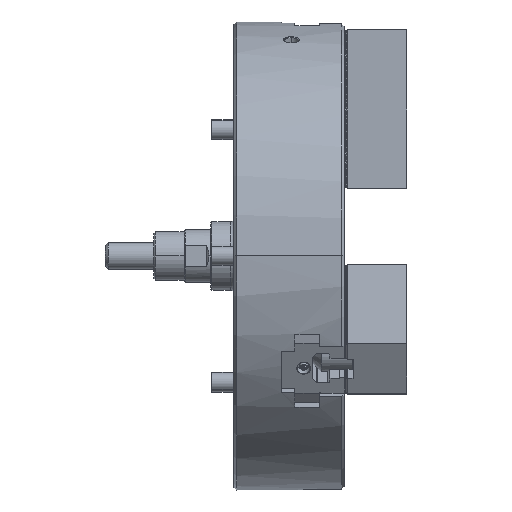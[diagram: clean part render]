
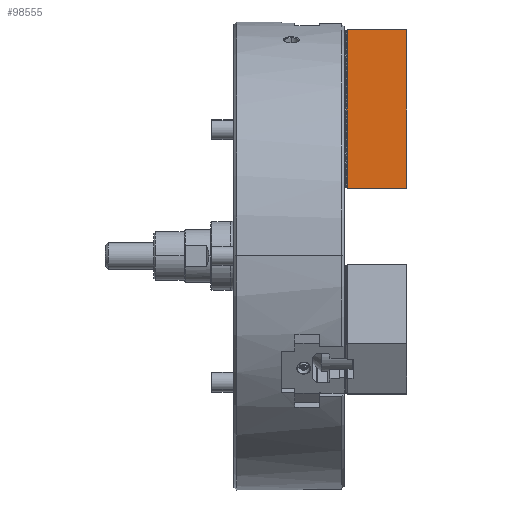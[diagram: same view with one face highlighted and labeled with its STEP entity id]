
A CAD part, top view. The second image highlights one B-rep face of the part: STEP entity #98555.
In plain terms, the highlighted planar face has unit normal (0, 0, 1) as drawn and (-1, 0, 0) by its records, which use the part's own axes.
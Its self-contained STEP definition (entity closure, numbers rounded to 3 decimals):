
#1492 = VECTOR ( 'NONE', #6863, 1000. ) ;
#2252 = DIRECTION ( 'NONE',  ( 1., 0., 0. ) ) ;
#5940 = LINE ( 'NONE', #17706, #96765 ) ;
#6863 = DIRECTION ( 'NONE',  ( 0., -1., 0. ) ) ;
#7853 = VECTOR ( 'NONE', #35409, 1000. ) ;
#9342 = CARTESIAN_POINT ( 'NONE',  ( -32.5, 180., -34.4 ) ) ;
#14482 = CARTESIAN_POINT ( 'NONE',  ( -32.5, 180., 32.5 ) ) ;
#14983 = VERTEX_POINT ( 'NONE', #30343 ) ;
#17706 = CARTESIAN_POINT ( 'NONE',  ( -32.5, 180., 32.5 ) ) ;
#18772 = ORIENTED_EDGE ( 'NONE', *, *, #52591, .T. ) ;
#25231 = AXIS2_PLACEMENT_3D ( 'NONE', #43569, #2252, #25839 ) ;
#25839 = DIRECTION ( 'NONE',  ( 0., 0., -1. ) ) ;
#26812 = EDGE_LOOP ( 'NONE', ( #83018, #51994, #47265, #18772 ) ) ;
#26845 = CARTESIAN_POINT ( 'NONE',  ( -32.5, 0., 32.5 ) ) ;
#30343 = CARTESIAN_POINT ( 'NONE',  ( -32.5, 180., 32.5 ) ) ;
#30747 = FACE_OUTER_BOUND ( 'NONE', #26812, .T. ) ;
#34942 = EDGE_CURVE ( 'NONE', #63318, #14983, #5940, .T. ) ;
#35409 = DIRECTION ( 'NONE',  ( 0., 0., 1. ) ) ;
#43569 = CARTESIAN_POINT ( 'NONE',  ( -32.5, 180., 32.5 ) ) ;
#47265 = ORIENTED_EDGE ( 'NONE', *, *, #34942, .F. ) ;
#51066 = CARTESIAN_POINT ( 'NONE',  ( -32.5, 0., 32.5 ) ) ;
#51859 = VERTEX_POINT ( 'NONE', #26845 ) ;
#51994 = ORIENTED_EDGE ( 'NONE', *, *, #63070, .F. ) ;
#52591 = EDGE_CURVE ( 'NONE', #63318, #69944, #56699, .T. ) ;
#56699 = LINE ( 'NONE', #78529, #83917 ) ;
#57180 = LINE ( 'NONE', #51066, #7853 ) ;
#63070 = EDGE_CURVE ( 'NONE', #14983, #51859, #83180, .T. ) ;
#63318 = VERTEX_POINT ( 'NONE', #9342 ) ;
#69944 = VERTEX_POINT ( 'NONE', #76609 ) ;
#76609 = CARTESIAN_POINT ( 'NONE',  ( -32.5, 0., -34.4 ) ) ;
#78529 = CARTESIAN_POINT ( 'NONE',  ( -32.5, 180., -34.4 ) ) ;
#78776 = EDGE_CURVE ( 'NONE', #69944, #51859, #57180, .T. ) ;
#83018 = ORIENTED_EDGE ( 'NONE', *, *, #78776, .T. ) ;
#83180 = LINE ( 'NONE', #14482, #1492 ) ;
#83917 = VECTOR ( 'NONE', #103835, 1000. ) ;
#96765 = VECTOR ( 'NONE', #99950, 1000. ) ;
#98555 = ADVANCED_FACE ( 'NONE', ( #30747 ), #101186, .F. ) ;
#99950 = DIRECTION ( 'NONE',  ( 0., 0., 1. ) ) ;
#101186 = PLANE ( 'NONE',  #25231 ) ;
#103835 = DIRECTION ( 'NONE',  ( 0., -1., 0. ) ) ;
